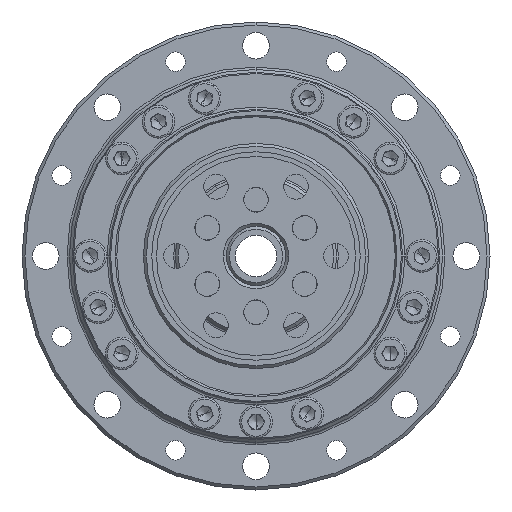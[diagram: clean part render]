
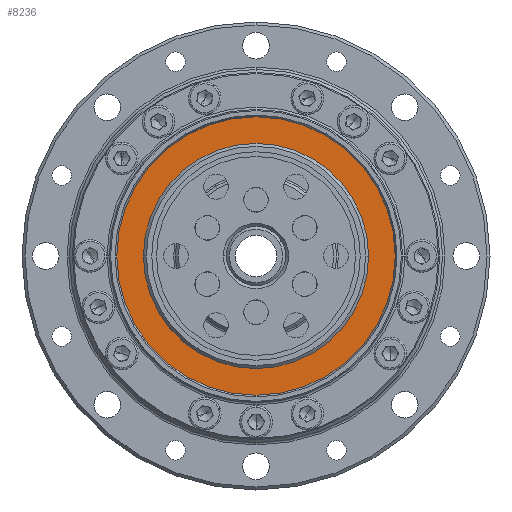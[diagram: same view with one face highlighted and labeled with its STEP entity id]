
A CAD part, left-side view. The second image highlights one B-rep face of the part: STEP entity #8236.
In plain terms, the highlighted planar face has unit normal (-1, 0, 0).
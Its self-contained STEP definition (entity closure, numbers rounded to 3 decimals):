
#278 = CARTESIAN_POINT ( 'NONE',  ( 1.559, 23.5, 0. ) ) ;
#568 = CIRCLE ( 'NONE', #22128, 19. ) ;
#1395 = EDGE_CURVE ( 'NONE', #15029, #11629, #20601, .T. ) ;
#1812 = CARTESIAN_POINT ( 'NONE',  ( 1.559, -19., 0. ) ) ;
#1956 = VERTEX_POINT ( 'NONE', #23447 ) ;
#3749 = ORIENTED_EDGE ( 'NONE', *, *, #21608, .F. ) ;
#3872 = AXIS2_PLACEMENT_3D ( 'NONE', #5948, #19114, #7823 ) ;
#4265 = DIRECTION ( 'NONE',  ( 1., 0., 0. ) ) ;
#4686 = DIRECTION ( 'NONE',  ( -1., 0., 0. ) ) ;
#5286 = CARTESIAN_POINT ( 'NONE',  ( 1.559, 0., 0. ) ) ;
#5948 = CARTESIAN_POINT ( 'NONE',  ( 1.559, 0., 0. ) ) ;
#6253 = CIRCLE ( 'NONE', #20954, 19. ) ;
#6530 = DIRECTION ( 'NONE',  ( -1., 0., 0. ) ) ;
#7162 = DIRECTION ( 'NONE',  ( 0., -1., 0. ) ) ;
#7317 = CARTESIAN_POINT ( 'NONE',  ( 1.559, 23.5, 0. ) ) ;
#7566 = FACE_BOUND ( 'NONE', #15634, .T. ) ;
#7823 = DIRECTION ( 'NONE',  ( 0., -1., 0. ) ) ;
#8236 = ADVANCED_FACE ( 'NONE', ( #7566, #18166 ), #19023, .F. ) ;
#8462 = CARTESIAN_POINT ( 'NONE',  ( 1.559, -23.5, 0. ) ) ;
#10773 = EDGE_CURVE ( 'NONE', #11629, #15029, #13964, .T. ) ;
#11629 = VERTEX_POINT ( 'NONE', #7317 ) ;
#12161 = VERTEX_POINT ( 'NONE', #1812 ) ;
#13168 = AXIS2_PLACEMENT_3D ( 'NONE', #15948, #4686, #17837 ) ;
#13475 = EDGE_LOOP ( 'NONE', ( #19020, #17668 ) ) ;
#13964 = CIRCLE ( 'NONE', #13168, 23.5 ) ;
#15029 = VERTEX_POINT ( 'NONE', #8462 ) ;
#15634 = EDGE_LOOP ( 'NONE', ( #3749, #16186 ) ) ;
#15948 = CARTESIAN_POINT ( 'NONE',  ( 1.559, 0., 0. ) ) ;
#16186 = ORIENTED_EDGE ( 'NONE', *, *, #23670, .F. ) ;
#16239 = AXIS2_PLACEMENT_3D ( 'NONE', #278, #4265, #17430 ) ;
#17430 = DIRECTION ( 'NONE',  ( 0., 1., 0. ) ) ;
#17668 = ORIENTED_EDGE ( 'NONE', *, *, #10773, .T. ) ;
#17802 = CARTESIAN_POINT ( 'NONE',  ( 1.559, 0., 0. ) ) ;
#17837 = DIRECTION ( 'NONE',  ( 0., -1., 0. ) ) ;
#18166 = FACE_OUTER_BOUND ( 'NONE', #13475, .T. ) ;
#18442 = DIRECTION ( 'NONE',  ( -1., 0., 0. ) ) ;
#19020 = ORIENTED_EDGE ( 'NONE', *, *, #1395, .T. ) ;
#19023 = PLANE ( 'NONE',  #16239 ) ;
#19114 = DIRECTION ( 'NONE',  ( -1., 0., 0. ) ) ;
#19706 = DIRECTION ( 'NONE',  ( 0., -1., 0. ) ) ;
#20601 = CIRCLE ( 'NONE', #3872, 23.5 ) ;
#20954 = AXIS2_PLACEMENT_3D ( 'NONE', #17802, #6530, #19706 ) ;
#21608 = EDGE_CURVE ( 'NONE', #12161, #1956, #6253, .T. ) ;
#22128 = AXIS2_PLACEMENT_3D ( 'NONE', #5286, #18442, #7162 ) ;
#23447 = CARTESIAN_POINT ( 'NONE',  ( 1.559, 19., 0. ) ) ;
#23670 = EDGE_CURVE ( 'NONE', #1956, #12161, #568, .T. ) ;
